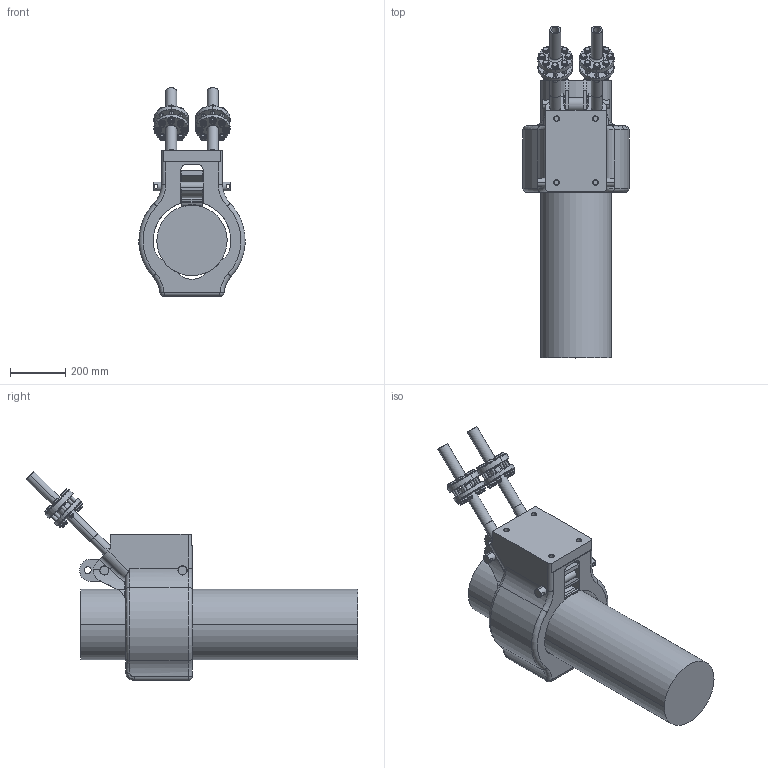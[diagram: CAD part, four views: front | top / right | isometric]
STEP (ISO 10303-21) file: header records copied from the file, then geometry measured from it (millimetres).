
FILE_DESCRIPTION((''),'2;1');
FILE_NAME('OS1515_ASM','2026-06-12T19:09:45',('Richard'),(''),'CREO PARAMETRIC BY PTC INC, 2025323','CREO PARAMETRIC BY PTC INC, 2025323','');
FILE_SCHEMA(('CONFIG_CONTROL_DESIGN'));
Length unit declared in the file: millimetre
Products named in the file (19): OS1515; 10_TUMM; OS1571; OS1570; OS1572-02; OS1572-01; OS1572-03; OS1572_ASM; OS1515-02; OS1572-04; OS1573; OS1574; OS1575_ASM; OS1568; OS1573_ARMSIDA; BRB-M12; 2660-2019; M6M-M12; OS1515_ASM
Assembly tree (83 placements, depth 3):
  OS1515_ASM
    OS1515
    10_TUMM
    OS1571
    OS1570
    OS1572_ASM
      OS1572-02
      OS1572-01  x2
      OS1572-03
    OS1515-02
    OS1572-04
    OS1575_ASM  x2
      OS1573
      OS1574
    OS1568  x2
    OS1573_ARMSIDA  x2
    BRB-M12  x32
    2660-2019  x16
    M6M-M12  x16
Bounding box: 383.02 x 1196.97 x 753.92 mm (x, y, z)
Volume: 76430819 mm3; surface area: 2586613.2 mm2
Topology: 82 solids, 102 shells, 1433 faces, 3302 edges, 2092 vertices
Faces by surface type: plane 502, cylinder 465, cone 368, torus 74, bspline 22, sphere 2
Entity records: 18137 total; most frequent: CARTESIAN_POINT 6162, DIRECTION 2664, ORIENTED_EDGE 2212, AXIS2_PLACEMENT_3D 1118, EDGE_CURVE 1116, VERTEX_POINT 692, CIRCLE 560, EDGE_LOOP 550
